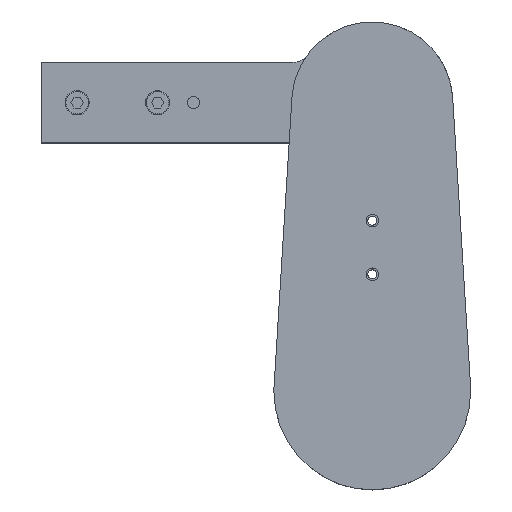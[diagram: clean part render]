
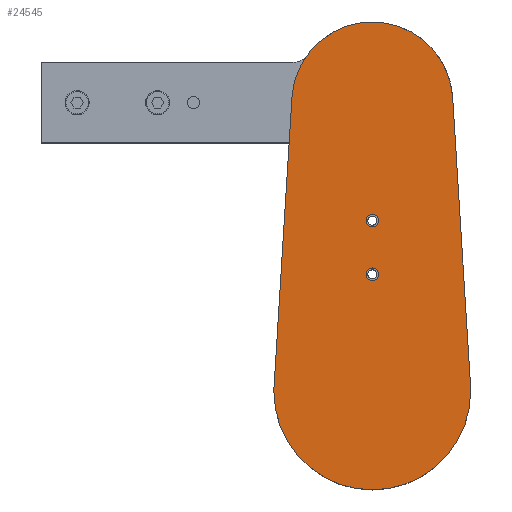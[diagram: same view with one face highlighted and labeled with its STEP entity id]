
A CAD part, top view. The second image highlights one B-rep face of the part: STEP entity #24545.
In plain terms, the highlighted planar face has unit normal (0, 0, 1) as drawn and (0, 0, -1) by its records, which use the part's own axes.
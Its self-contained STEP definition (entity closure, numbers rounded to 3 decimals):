
#1012 = ORIENTED_EDGE ( 'NONE', *, *, #14171, .F. ) ;
#1940 = DIRECTION ( 'NONE',  ( 1., 0., 0. ) ) ;
#2668 = CIRCLE ( 'NONE', #15102, 3.5 ) ;
#2733 = ORIENTED_EDGE ( 'NONE', *, *, #30070, .F. ) ;
#3001 = CARTESIAN_POINT ( 'NONE',  ( -44.914, 164.286, 0. ) ) ;
#4354 = CARTESIAN_POINT ( 'NONE',  ( 0., 161.5, 0. ) ) ;
#5022 = CIRCLE ( 'NONE', #71330, 55. ) ;
#8182 = ORIENTED_EDGE ( 'NONE', *, *, #26156, .F. ) ;
#10254 = CIRCLE ( 'NONE', #15236, 3.5 ) ;
#10334 = EDGE_CURVE ( 'NONE', #56430, #80991, #10254, .T. ) ;
#11251 = FACE_BOUND ( 'NONE', #55104, .T. ) ;
#11689 = VERTEX_POINT ( 'NONE', #12956 ) ;
#12282 = CIRCLE ( 'NONE', #49851, 3.5 ) ;
#12609 = EDGE_CURVE ( 'NONE', #52389, #65256, #5022, .T. ) ;
#12956 = CARTESIAN_POINT ( 'NONE',  ( -3.5, 95.5, 0. ) ) ;
#12973 = DIRECTION ( 'NONE',  ( 0., 0., -1. ) ) ;
#13376 = VERTEX_POINT ( 'NONE', #23199 ) ;
#13478 = CARTESIAN_POINT ( 'NONE',  ( 44.914, 164.286, 0. ) ) ;
#14171 = EDGE_CURVE ( 'NONE', #55896, #52389, #72776, .T. ) ;
#15102 = AXIS2_PLACEMENT_3D ( 'NONE', #62670, #37369, #67912 ) ;
#15232 = CARTESIAN_POINT ( 'NONE',  ( 44.914, 164.286, 0. ) ) ;
#15236 = AXIS2_PLACEMENT_3D ( 'NONE', #45238, #64500, #76892 ) ;
#16183 = EDGE_CURVE ( 'NONE', #11689, #61209, #2668, .T. ) ;
#17276 = AXIS2_PLACEMENT_3D ( 'NONE', #58422, #26692, #39119 ) ;
#17441 = ORIENTED_EDGE ( 'NONE', *, *, #10334, .F. ) ;
#17571 = CARTESIAN_POINT ( 'NONE',  ( 3.5, 65.5, 0. ) ) ;
#20250 = DIRECTION ( 'NONE',  ( 1., 0., 0. ) ) ;
#21198 = LINE ( 'NONE', #3001, #28242 ) ;
#21253 = EDGE_CURVE ( 'NONE', #80991, #56430, #12282, .T. ) ;
#21701 = CARTESIAN_POINT ( 'NONE',  ( 0., 0., 0. ) ) ;
#23199 = CARTESIAN_POINT ( 'NONE',  ( -44.914, 164.286, 0. ) ) ;
#24545 = ADVANCED_FACE ( 'NONE', ( #11251, #72301, #55567 ), #64445, .F. ) ;
#24739 = EDGE_LOOP ( 'NONE', ( #73065, #17441 ) ) ;
#26156 = EDGE_CURVE ( 'NONE', #31829, #13376, #35680, .T. ) ;
#26692 = DIRECTION ( 'NONE',  ( 0., 0., 1. ) ) ;
#27059 = EDGE_CURVE ( 'NONE', #61209, #11689, #62093, .T. ) ;
#27130 = DIRECTION ( 'NONE',  ( 0., 0., 1. ) ) ;
#27904 = DIRECTION ( 'NONE',  ( -0.062, 0.998, 0. ) ) ;
#28242 = VECTOR ( 'NONE', #47601, 1000. ) ;
#28808 = ORIENTED_EDGE ( 'NONE', *, *, #27059, .F. ) ;
#30070 = EDGE_CURVE ( 'NONE', #65256, #31829, #37967, .T. ) ;
#31829 = VERTEX_POINT ( 'NONE', #13478 ) ;
#33016 = CARTESIAN_POINT ( 'NONE',  ( 3.5, 95.5, 0. ) ) ;
#35680 = CIRCLE ( 'NONE', #71005, 45. ) ;
#37192 = AXIS2_PLACEMENT_3D ( 'NONE', #64974, #45439, #1940 ) ;
#37369 = DIRECTION ( 'NONE',  ( 0., 0., -1. ) ) ;
#37967 = LINE ( 'NONE', #15232, #56672 ) ;
#39119 = DIRECTION ( 'NONE',  ( 1., 0., 0. ) ) ;
#39937 = DIRECTION ( 'NONE',  ( 1., 0., 0. ) ) ;
#41391 = CARTESIAN_POINT ( 'NONE',  ( 54.894, 3.406, 0. ) ) ;
#43068 = CARTESIAN_POINT ( 'NONE',  ( -3.5, 65.5, 0. ) ) ;
#43314 = CARTESIAN_POINT ( 'NONE',  ( -54.894, 3.406, 0. ) ) ;
#44895 = CARTESIAN_POINT ( 'NONE',  ( 0., 65.5, 0. ) ) ;
#45238 = CARTESIAN_POINT ( 'NONE',  ( 0., 65.5, 0. ) ) ;
#45247 = CARTESIAN_POINT ( 'NONE',  ( 0., 95.5, 0. ) ) ;
#45439 = DIRECTION ( 'NONE',  ( 0., 0., 1. ) ) ;
#46070 = DIRECTION ( 'NONE',  ( 1., 0., 0. ) ) ;
#47601 = DIRECTION ( 'NONE',  ( -0.062, -0.998, 0. ) ) ;
#48434 = DIRECTION ( 'NONE',  ( 1., 0., 0. ) ) ;
#49851 = AXIS2_PLACEMENT_3D ( 'NONE', #44895, #12973, #57308 ) ;
#50294 = EDGE_CURVE ( 'NONE', #13376, #73103, #21198, .T. ) ;
#52389 = VERTEX_POINT ( 'NONE', #68647 ) ;
#55104 = EDGE_LOOP ( 'NONE', ( #28808, #65919 ) ) ;
#55567 = FACE_OUTER_BOUND ( 'NONE', #78565, .T. ) ;
#55896 = VERTEX_POINT ( 'NONE', #81175 ) ;
#56430 = VERTEX_POINT ( 'NONE', #43068 ) ;
#56672 = VECTOR ( 'NONE', #27904, 1000. ) ;
#57308 = DIRECTION ( 'NONE',  ( 1., 0., 0. ) ) ;
#58009 = CARTESIAN_POINT ( 'NONE',  ( 0., 0., 0. ) ) ;
#58422 = CARTESIAN_POINT ( 'NONE',  ( 0., 161.5, 0. ) ) ;
#58660 = DIRECTION ( 'NONE',  ( 0., 0., 1. ) ) ;
#59781 = ORIENTED_EDGE ( 'NONE', *, *, #50294, .F. ) ;
#61209 = VERTEX_POINT ( 'NONE', #33016 ) ;
#61752 = EDGE_CURVE ( 'NONE', #73103, #55896, #65681, .T. ) ;
#62093 = CIRCLE ( 'NONE', #64738, 3.5 ) ;
#62670 = CARTESIAN_POINT ( 'NONE',  ( 0., 95.5, 0. ) ) ;
#64445 = PLANE ( 'NONE',  #17276 ) ;
#64500 = DIRECTION ( 'NONE',  ( 0., 0., -1. ) ) ;
#64509 = DIRECTION ( 'NONE',  ( 0., 0., -1. ) ) ;
#64738 = AXIS2_PLACEMENT_3D ( 'NONE', #45247, #64509, #46070 ) ;
#64974 = CARTESIAN_POINT ( 'NONE',  ( 0., 0., 0. ) ) ;
#65256 = VERTEX_POINT ( 'NONE', #41391 ) ;
#65681 = CIRCLE ( 'NONE', #75130, 55. ) ;
#65919 = ORIENTED_EDGE ( 'NONE', *, *, #16183, .F. ) ;
#66303 = DIRECTION ( 'NONE',  ( 0., 0., 1. ) ) ;
#67912 = DIRECTION ( 'NONE',  ( 1., 0., 0. ) ) ;
#68647 = CARTESIAN_POINT ( 'NONE',  ( 55., 0., 0. ) ) ;
#69497 = ORIENTED_EDGE ( 'NONE', *, *, #61752, .F. ) ;
#71005 = AXIS2_PLACEMENT_3D ( 'NONE', #4354, #66303, #48434 ) ;
#71330 = AXIS2_PLACEMENT_3D ( 'NONE', #21701, #58660, #39937 ) ;
#71946 = ORIENTED_EDGE ( 'NONE', *, *, #12609, .F. ) ;
#72301 = FACE_BOUND ( 'NONE', #24739, .T. ) ;
#72776 = CIRCLE ( 'NONE', #37192, 55. ) ;
#73065 = ORIENTED_EDGE ( 'NONE', *, *, #21253, .F. ) ;
#73103 = VERTEX_POINT ( 'NONE', #43314 ) ;
#75130 = AXIS2_PLACEMENT_3D ( 'NONE', #58009, #27130, #20250 ) ;
#76892 = DIRECTION ( 'NONE',  ( 1., 0., 0. ) ) ;
#78565 = EDGE_LOOP ( 'NONE', ( #8182, #2733, #71946, #1012, #69497, #59781 ) ) ;
#80991 = VERTEX_POINT ( 'NONE', #17571 ) ;
#81175 = CARTESIAN_POINT ( 'NONE',  ( -55., 0., 0. ) ) ;
